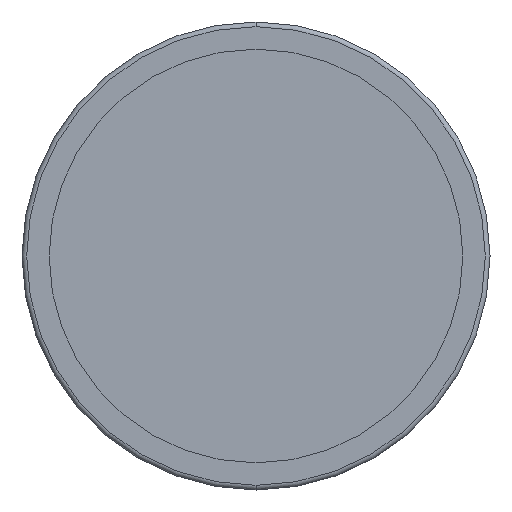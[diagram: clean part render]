
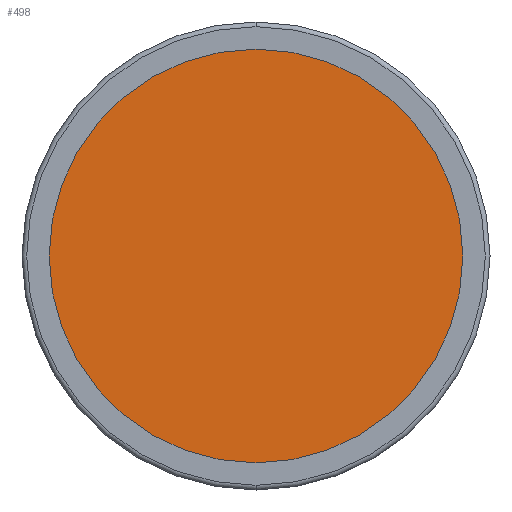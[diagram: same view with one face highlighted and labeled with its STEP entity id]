
A CAD part, front view. The second image highlights one B-rep face of the part: STEP entity #498.
In plain terms, the highlighted planar face has unit normal (0, -1, 0).
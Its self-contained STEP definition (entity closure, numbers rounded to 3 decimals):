
#50 = CARTESIAN_POINT ( 'NONE',  ( 0., -3., 0. ) ) ;
#74 = DIRECTION ( 'NONE',  ( 0., 0., -1. ) ) ;
#257 = DIRECTION ( 'NONE',  ( 0., 1., 0. ) ) ;
#498 = ADVANCED_FACE ( 'NONE', ( #2048 ), #1079, .T. ) ;
#543 = AXIS2_PLACEMENT_3D ( 'NONE', #927, #1924, #2395 ) ;
#785 = DIRECTION ( 'NONE',  ( 0., 0., 1. ) ) ;
#846 = AXIS2_PLACEMENT_3D ( 'NONE', #50, #257, #785 ) ;
#927 = CARTESIAN_POINT ( 'NONE',  ( 0., -3., 0. ) ) ;
#1077 = ORIENTED_EDGE ( 'NONE', *, *, #1416, .F. ) ;
#1079 = PLANE ( 'NONE',  #2717 ) ;
#1093 = EDGE_LOOP ( 'NONE', ( #1369, #1077 ) ) ;
#1284 = CARTESIAN_POINT ( 'NONE',  ( 0., -3., 43.75 ) ) ;
#1369 = ORIENTED_EDGE ( 'NONE', *, *, #1752, .F. ) ;
#1416 = EDGE_CURVE ( 'NONE', #2012, #2073, #2565, .T. ) ;
#1752 = EDGE_CURVE ( 'NONE', #2073, #2012, #2260, .T. ) ;
#1924 = DIRECTION ( 'NONE',  ( 0., 1., 0. ) ) ;
#2012 = VERTEX_POINT ( 'NONE', #2228 ) ;
#2034 = DIRECTION ( 'NONE',  ( 0., -1., 0. ) ) ;
#2048 = FACE_OUTER_BOUND ( 'NONE', #1093, .T. ) ;
#2073 = VERTEX_POINT ( 'NONE', #1284 ) ;
#2228 = CARTESIAN_POINT ( 'NONE',  ( 0., -3., -43.75 ) ) ;
#2260 = CIRCLE ( 'NONE', #846, 43.75 ) ;
#2395 = DIRECTION ( 'NONE',  ( 0., 0., 1. ) ) ;
#2534 = CARTESIAN_POINT ( 'NONE',  ( -43.75, -3., 0. ) ) ;
#2565 = CIRCLE ( 'NONE', #543, 43.75 ) ;
#2717 = AXIS2_PLACEMENT_3D ( 'NONE', #2534, #2034, #74 ) ;
